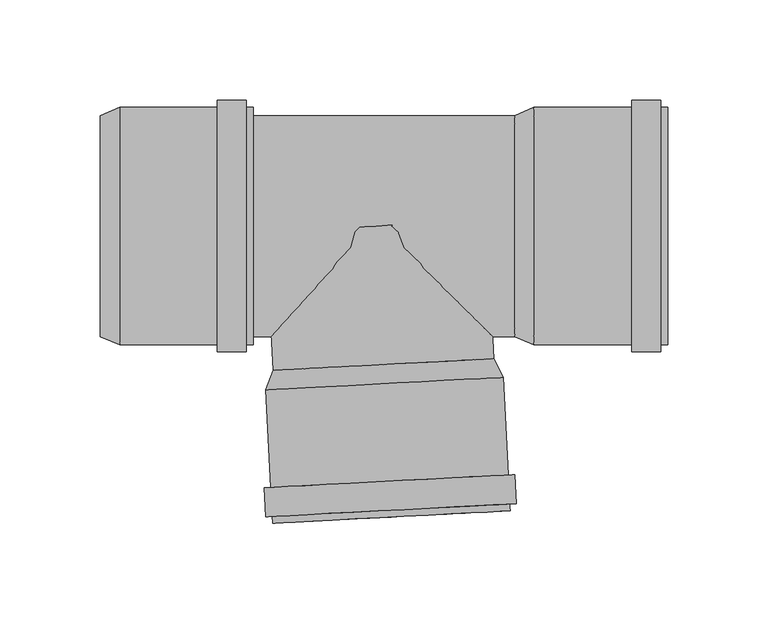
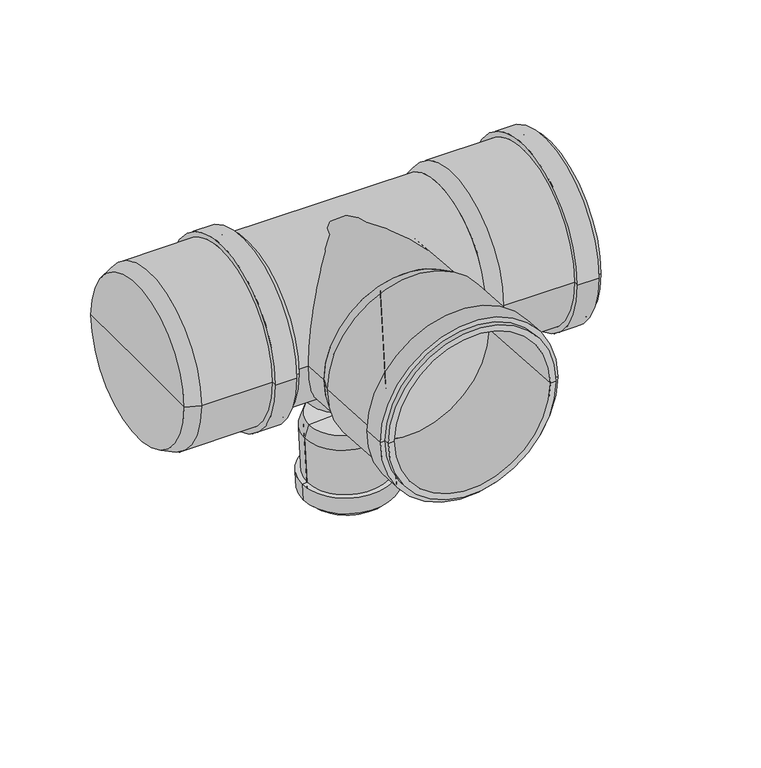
"""IFC4 building model written with IfcOpenShell, lengths in millimetres: pipe fitting geometry, pf_HTEPKp : pf_HTEPKp."""

from ifc_helpers import new_model, si_unit, point, frame, origin, origin_2d, place, context, project, spatial, polyline, circle_curve, trimmed, segment, composite_curve, outline, extrude, source, transform, mapped, element, save
from ifc_brep_helpers import plane_surface, cylinder_surface, revolved_surface, advanced_brep


def pipe_fitting_aec229c0(model_context):
    return source(origin(), model_context, "Body", "SolidModel", [
        advanced_brep(
        [(-20.4884237, 0.0, -86.7406527), (29.4430531, 0.0, -84.1238549), (32.9836603, 0.0, -92.4499645), (-23.1393196, 0.0, -95.3912452), (4.4773147, 0.0, -85.4322538), (-20.6533617, 0.0, -142.8261481), (35.4696182, 0.0, -139.8848674), (32.3738666, 0.0, -140.0471088), (-17.5576101, 0.0, -142.6639067), (-20.8313039, 0.0, -139.4308077), (35.2916759, 0.0, -136.489527), (-24.2266443, 0.0, -139.60875), (38.6870163, 0.0, -136.3115847), (-24.8232742, 0.0, -128.2243733), (38.0903864, 0.0, -124.927208), (-21.4279338, 0.0, -128.046431), (34.695046, 0.0, -125.1051503), (-20.043568, 0.0, -95.2290038), (29.8879087, 0.0, -92.6122059), (4.9221703, 0.0, -93.9206049)],
        [
            (0, 1, circle_curve(frame((4.4773147, 0.0, -85.4322538), z_axis=(0.05233595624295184, 0.0, -0.9986295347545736), x_axis=(0.9986295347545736, 0.0, 0.05233595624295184)), 25.0)),
            (1, 2),
            (2, 3, circle_curve(frame((4.9221703, 0.0, -93.9206049), z_axis=(-0.05233595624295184, 0.0, 0.9986295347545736), x_axis=(0.9986295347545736, 0.0, 0.05233595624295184)), 28.1)),
            (3, 0),
            (1, 0, circle_curve(frame((4.4773147, 0.0, -85.4322538), z_axis=(0.05233595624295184, 0.0, -0.9986295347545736), x_axis=(0.9986295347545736, 0.0, 0.05233595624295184)), 25.0)),
            (3, 2, circle_curve(frame((4.9221703, 0.0, -93.9206049), z_axis=(-0.05233595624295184, 0.0, 0.9986295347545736), x_axis=(0.9986295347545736, 0.0, 0.05233595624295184)), 28.1)),
            (4, 1),
            (0, 4),
            (5, 6, circle_curve(frame((7.4081283, 0.0, -141.3555078), z_axis=(0.05233595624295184, 0.0, -0.9986295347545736), x_axis=(0.9986295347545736, 0.0, 0.05233595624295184)), 28.1)),
            (6, 7),
            (7, 8, circle_curve(frame((7.4081283, 0.0, -141.3555078), z_axis=(-0.05233595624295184, 0.0, 0.9986295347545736), x_axis=(0.9986295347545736, 0.0, 0.05233595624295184)), 25.0)),
            (8, 5),
            (6, 5, circle_curve(frame((7.4081283, 0.0, -141.3555078), z_axis=(0.05233595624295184, 0.0, -0.9986295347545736), x_axis=(0.9986295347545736, 0.0, 0.05233595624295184)), 28.1)),
            (8, 7, circle_curve(frame((7.4081283, 0.0, -141.3555078), z_axis=(-0.05233595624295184, 0.0, 0.9986295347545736), x_axis=(0.9986295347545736, 0.0, 0.05233595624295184)), 25.0)),
            (9, 10, circle_curve(frame((7.230186, 0.0, -137.9601673), z_axis=(0.05233595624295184, 0.0, -0.9986295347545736), x_axis=(0.9986295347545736, 0.0, 0.05233595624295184)), 28.1)),
            (10, 6),
            (5, 9),
            (10, 9, circle_curve(frame((7.230186, 0.0, -137.9601673), z_axis=(0.05233595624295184, 0.0, -0.9986295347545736), x_axis=(0.9986295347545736, 0.0, 0.05233595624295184)), 28.1)),
            (11, 12, circle_curve(frame((7.230186, 0.0, -137.9601673), z_axis=(0.05233595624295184, 0.0, -0.9986295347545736), x_axis=(0.9986295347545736, 0.0, 0.05233595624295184)), 31.5)),
            (12, 10),
            (9, 11),
            (12, 11, circle_curve(frame((7.230186, 0.0, -137.9601673), z_axis=(0.05233595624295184, 0.0, -0.9986295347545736), x_axis=(0.9986295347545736, 0.0, 0.05233595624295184)), 31.5)),
            (13, 14, circle_curve(frame((6.6335561, 0.0, -126.5757906), z_axis=(0.05233595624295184, 0.0, -0.9986295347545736), x_axis=(0.9986295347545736, 0.0, 0.05233595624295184)), 31.5)),
            (14, 12),
            (11, 13),
            (14, 13, circle_curve(frame((6.6335561, 0.0, -126.5757906), z_axis=(0.05233595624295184, 0.0, -0.9986295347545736), x_axis=(0.9986295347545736, 0.0, 0.05233595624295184)), 31.5)),
            (15, 16, circle_curve(frame((6.6335561, 0.0, -126.5757906), z_axis=(0.05233595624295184, 0.0, -0.9986295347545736), x_axis=(0.9986295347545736, 0.0, 0.05233595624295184)), 28.1)),
            (16, 14),
            (13, 15),
            (16, 15, circle_curve(frame((6.6335561, 0.0, -126.5757906), z_axis=(0.05233595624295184, 0.0, -0.9986295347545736), x_axis=(0.9986295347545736, 0.0, 0.05233595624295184)), 28.1)),
            (2, 16),
            (15, 3),
            (17, 18, circle_curve(frame((4.9221703, 0.0, -93.9206049), z_axis=(0.05233595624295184, 0.0, -0.9986295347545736), x_axis=(0.9986295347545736, 0.0, 0.05233595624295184)), 25.0)),
            (18, 19),
            (19, 17),
            (18, 17, circle_curve(frame((4.9221703, 0.0, -93.9206049), z_axis=(0.05233595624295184, 0.0, -0.9986295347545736), x_axis=(0.9986295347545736, 0.0, 0.05233595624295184)), 25.0)),
            (7, 18),
            (17, 8),
        ],
        [
            revolved_surface(polyline([(32.9836603, 0.0, -92.4499645), (29.4430531, 0.0, -84.1238549)]), (4.4773147, 0.0, -85.4322538), (-0.05233595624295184, 0.0, 0.9986295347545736)),
            plane_surface(frame((4.4773147, 0.0, -85.4322538), z_axis=(-0.05233595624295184, 0.0, 0.9986295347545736), x_axis=(0.9986295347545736, 0.0, 0.05233595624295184))),
            plane_surface(frame((7.4081283, 0.0, -141.3555078), z_axis=(0.05233595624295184, 0.0, -0.9986295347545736), x_axis=(0.9986295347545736, 0.0, 0.05233595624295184))),
            cylinder_surface(frame((4.4773147, 0.0, -85.4322538), z_axis=(-0.05233595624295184, 0.0, 0.9986295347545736), x_axis=(0.9986295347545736, 0.0, 0.05233595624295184)), 28.1),
            plane_surface(frame((7.230186, 0.0, -137.9601673), z_axis=(0.05233595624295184, 0.0, -0.9986295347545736), x_axis=(0.9986295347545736, 0.0, 0.05233595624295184))),
            cylinder_surface(frame((4.4773147, 0.0, -85.4322538), z_axis=(-0.05233595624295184, 0.0, 0.9986295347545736), x_axis=(0.9986295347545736, 0.0, 0.05233595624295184)), 31.5),
            plane_surface(frame((6.6335561, 0.0, -126.5757906), z_axis=(-0.05233595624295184, 0.0, 0.9986295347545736), x_axis=(0.9986295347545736, 0.0, 0.05233595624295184))),
            plane_surface(frame((4.9221703, 0.0, -93.9206049), z_axis=(0.05233595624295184, 0.0, -0.9986295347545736), x_axis=(0.9986295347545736, 0.0, 0.05233595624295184))),
            revolved_surface(polyline([(29.887908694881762, 0.0, -92.61220590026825), (32.37386662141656, 0.0, -140.04710889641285)]), (4.4773147, 0.0, -85.4322538), (-0.05233595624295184, 0.0, 0.9986295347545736)),
        ],
        [
            (0, [[1, 2, 3, 4]]),
            (0, [[5, -4, 6, -2]]),
            (1, [[7, -1, 8]]),
            (1, [[-8, -5, -7]]),
            (2, [[9, 10, 11, 12]]),
            (2, [[13, -12, 14, -10]]),
            (3, [[15, 16, -9, 17]]),
            (3, [[18, -17, -13, -16]]),
            (4, [[19, 20, -15, 21]]),
            (4, [[22, -21, -18, -20]]),
            (5, [[23, 24, -19, 25]]),
            (5, [[26, -25, -22, -24]]),
            (6, [[27, 28, -23, 29]]),
            (6, [[30, -29, -26, -28]]),
            (3, [[-3, 31, -27, 32]]),
            (3, [[-6, -32, -30, -31]]),
            (7, [[33, 34, 35]]),
            (7, [[36, -35, -34]]),
            (8, [[-11, 37, -33, 38]]),
            (8, [[-14, -38, -36, -37]]),
        ],
    ),
        advanced_brep(
        [(-51.3134434, -71.7839155, 0.0), (58.5358054, -66.0269603, 0.0), (63.1273781, -75.2993635, 0.0), (-54.9106329, -81.4854735, 0.0), (3.611181, -68.9054379, 0.0), (-51.4302918, -147.8943376, 0.0), (66.6077192, -141.7082275, 0.0), (62.5133381, -141.9228049, 0.0), (-47.3359108, -147.6797601, 0.0), (-51.6082341, -144.4989971, 0.0), (66.4297769, -138.3128871, 0.0), (-55.0035745, -144.6769394, 0.0), (69.8251173, -138.1349449, 0.0), (-55.7624459, -130.1968111, 0.0), (69.066246, -123.6548166, 0.0), (-52.3671055, -130.0188689, 0.0), (65.6709055, -123.8327589, 0.0), (-50.8162518, -81.2708961, 0.0), (59.032997, -75.5139409, 0.0), (4.1083726, -78.3924185, 0.0)],
        [
            (0, 1, circle_curve(frame((3.611181, -68.9054379, 0.0), z_axis=(0.052335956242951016, -0.9986295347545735, 0.0), x_axis=(0.9986295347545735, 0.052335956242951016, 0.0)), 55.0)),
            (1, 2),
            (2, 3, circle_curve(frame((4.1083726, -78.3924185, 0.0), z_axis=(-0.052335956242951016, 0.9986295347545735, 0.0), x_axis=(0.9986295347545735, 0.052335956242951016, 0.0)), 59.1)),
            (3, 0),
            (1, 0, circle_curve(frame((3.611181, -68.9054379, 0.0), z_axis=(0.052335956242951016, -0.9986295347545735, 0.0), x_axis=(0.9986295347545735, 0.052335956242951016, 0.0)), 55.0)),
            (3, 2, circle_curve(frame((4.1083726, -78.3924185, 0.0), z_axis=(-0.052335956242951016, 0.9986295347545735, 0.0), x_axis=(0.9986295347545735, 0.052335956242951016, 0.0)), 59.1)),
            (4, 1),
            (0, 4),
            (5, 6, circle_curve(frame((7.5887137, -144.8012825, 0.0), z_axis=(0.052335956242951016, -0.9986295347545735, 0.0), x_axis=(0.9986295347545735, 0.052335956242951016, 0.0)), 59.1)),
            (6, 7),
            (7, 8, circle_curve(frame((7.5887137, -144.8012825, 0.0), z_axis=(-0.052335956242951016, 0.9986295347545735, 0.0), x_axis=(0.9986295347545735, 0.052335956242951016, 0.0)), 55.0)),
            (8, 5),
            (6, 5, circle_curve(frame((7.5887137, -144.8012825, 0.0), z_axis=(0.052335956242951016, -0.9986295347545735, 0.0), x_axis=(0.9986295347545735, 0.052335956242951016, 0.0)), 59.1)),
            (8, 7, circle_curve(frame((7.5887137, -144.8012825, 0.0), z_axis=(-0.052335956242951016, 0.9986295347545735, 0.0), x_axis=(0.9986295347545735, 0.052335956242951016, 0.0)), 55.0)),
            (9, 10, circle_curve(frame((7.4107714, -141.4059421, 0.0), z_axis=(0.052335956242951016, -0.9986295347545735, 0.0), x_axis=(0.9986295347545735, 0.052335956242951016, 0.0)), 59.1)),
            (10, 6),
            (5, 9),
            (10, 9, circle_curve(frame((7.4107714, -141.4059421, 0.0), z_axis=(0.052335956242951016, -0.9986295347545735, 0.0), x_axis=(0.9986295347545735, 0.052335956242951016, 0.0)), 59.1)),
            (11, 12, circle_curve(frame((7.4107714, -141.4059421, 0.0), z_axis=(0.052335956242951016, -0.9986295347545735, 0.0), x_axis=(0.9986295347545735, 0.052335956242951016, 0.0)), 62.5)),
            (12, 10),
            (9, 11),
            (12, 11, circle_curve(frame((7.4107714, -141.4059421, 0.0), z_axis=(0.052335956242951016, -0.9986295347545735, 0.0), x_axis=(0.9986295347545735, 0.052335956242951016, 0.0)), 62.5)),
            (13, 14, circle_curve(frame((6.6519, -126.9258139, 0.0), z_axis=(0.052335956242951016, -0.9986295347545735, 0.0), x_axis=(0.9986295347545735, 0.052335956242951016, 0.0)), 62.5)),
            (14, 12),
            (11, 13),
            (14, 13, circle_curve(frame((6.6519, -126.9258139, 0.0), z_axis=(0.052335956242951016, -0.9986295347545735, 0.0), x_axis=(0.9986295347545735, 0.052335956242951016, 0.0)), 62.5)),
            (15, 16, circle_curve(frame((6.6519, -126.9258139, 0.0), z_axis=(0.052335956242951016, -0.9986295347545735, 0.0), x_axis=(0.9986295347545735, 0.052335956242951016, 0.0)), 59.1)),
            (16, 14),
            (13, 15),
            (16, 15, circle_curve(frame((6.6519, -126.9258139, 0.0), z_axis=(0.052335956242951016, -0.9986295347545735, 0.0), x_axis=(0.9986295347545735, 0.052335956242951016, 0.0)), 59.1)),
            (2, 16),
            (15, 3),
            (17, 18, circle_curve(frame((4.1083726, -78.3924185, 0.0), z_axis=(0.052335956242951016, -0.9986295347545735, 0.0), x_axis=(0.9986295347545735, 0.052335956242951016, 0.0)), 55.0)),
            (18, 19),
            (19, 17),
            (18, 17, circle_curve(frame((4.1083726, -78.3924185, 0.0), z_axis=(0.052335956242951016, -0.9986295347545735, 0.0), x_axis=(0.9986295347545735, 0.052335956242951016, 0.0)), 55.0)),
            (7, 18),
            (17, 8),
        ],
        [
            revolved_surface(polyline([(63.1273781, -75.2993635, 0.0), (58.5358054, -66.0269603, 0.0)]), (3.611181, -68.9054379, 0.0), (-0.052335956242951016, 0.9986295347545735, 0.0)),
            plane_surface(frame((3.611181, -68.9054379, 0.0), z_axis=(-0.052335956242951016, 0.9986295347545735, 0.0), x_axis=(0.9986295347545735, 0.052335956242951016, 0.0))),
            plane_surface(frame((7.5887137, -144.8012825, 0.0), z_axis=(0.052335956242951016, -0.9986295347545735, 0.0), x_axis=(0.9986295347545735, 0.052335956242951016, 0.0))),
            cylinder_surface(frame((3.611181, -68.9054379, 0.0), z_axis=(-0.052335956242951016, 0.9986295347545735, 0.0), x_axis=(0.9986295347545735, 0.052335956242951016, 0.0)), 59.1),
            plane_surface(frame((7.4107714, -141.4059421, 0.0), z_axis=(0.052335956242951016, -0.9986295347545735, 0.0), x_axis=(0.9986295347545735, 0.052335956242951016, 0.0))),
            cylinder_surface(frame((3.611181, -68.9054379, 0.0), z_axis=(-0.052335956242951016, 0.9986295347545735, 0.0), x_axis=(0.9986295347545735, 0.052335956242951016, 0.0)), 62.5),
            plane_surface(frame((6.6519, -126.9258139, 0.0), z_axis=(-0.052335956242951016, 0.9986295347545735, 0.0), x_axis=(0.9986295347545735, 0.052335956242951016, 0.0))),
            plane_surface(frame((4.1083726, -78.3924185, 0.0), z_axis=(0.052335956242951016, -0.9986295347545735, 0.0), x_axis=(0.9986295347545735, 0.052335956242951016, 0.0))),
            revolved_surface(polyline([(59.03299699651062, -75.51394090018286, 0.0), (62.51333808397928, -141.92280491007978, 0.0)]), (3.611181, -68.9054379, 0.0), (-0.052335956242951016, 0.9986295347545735, 0.0)),
        ],
        [
            (0, [[1, 2, 3, 4]]),
            (0, [[5, -4, 6, -2]]),
            (1, [[7, -1, 8]]),
            (1, [[-8, -5, -7]]),
            (2, [[9, 10, 11, 12]]),
            (2, [[13, -12, 14, -10]]),
            (3, [[15, 16, -9, 17]]),
            (3, [[18, -17, -13, -16]]),
            (4, [[19, 20, -15, 21]]),
            (4, [[22, -21, -18, -20]]),
            (5, [[23, 24, -19, 25]]),
            (5, [[26, -25, -22, -24]]),
            (6, [[27, 28, -23, 29]]),
            (6, [[30, -29, -26, -28]]),
            (3, [[-3, 31, -27, 32]]),
            (3, [[-6, -32, -30, -31]]),
            (7, [[33, 34, 35]]),
            (7, [[36, -35, -34]]),
            (8, [[-11, 37, -33, 38]]),
            (8, [[-14, -38, -36, -37]]),
        ],
    ),
        advanced_brep(
        [(69.0, -55.0, 0.0), (69.0, 55.0, 0.0), (78.5, 59.1, 0.0), (78.5, -59.1, 0.0), (69.0, 0.0, 0.0), (145.0, -59.1, 0.0), (145.0, 59.1, 0.0), (145.0, 55.0, 0.0), (145.0, -55.0, 0.0), (141.6, -59.1, 0.0), (141.6, 59.1, 0.0), (141.6, -62.5, 0.0), (141.6, 62.5, 0.0), (127.1, -62.5, 0.0), (127.1, 62.5, 0.0), (127.1, -59.1, 0.0), (127.1, 59.1, 0.0), (78.5, -55.0, 0.0), (78.5, 55.0, 0.0), (78.5, 0.0, 0.0)],
        [
            (0, 1, circle_curve(frame((69.0, 0.0, 0.0), z_axis=(1.0, 0.0, 0.0), x_axis=(0.0, 1.0, 0.0)), 55.0)),
            (1, 2),
            (2, 3, circle_curve(frame((78.5, 0.0, 0.0), z_axis=(-1.0, 0.0, 0.0), x_axis=(0.0, 1.0, 0.0)), 59.1)),
            (3, 0),
            (1, 0, circle_curve(frame((69.0, 0.0, 0.0), z_axis=(1.0, 0.0, 0.0), x_axis=(0.0, 1.0, 0.0)), 55.0)),
            (3, 2, circle_curve(frame((78.5, 0.0, 0.0), z_axis=(-1.0, 0.0, 0.0), x_axis=(0.0, 1.0, 0.0)), 59.1)),
            (4, 1),
            (0, 4),
            (5, 6, circle_curve(frame((145.0, 0.0, 0.0), z_axis=(1.0, 0.0, 0.0), x_axis=(0.0, 1.0, 0.0)), 59.1)),
            (6, 7),
            (7, 8, circle_curve(frame((145.0, 0.0, 0.0), z_axis=(-1.0, 0.0, 0.0), x_axis=(0.0, 1.0, 0.0)), 55.0)),
            (8, 5),
            (6, 5, circle_curve(frame((145.0, 0.0, 0.0), z_axis=(1.0, 0.0, 0.0), x_axis=(0.0, 1.0, 0.0)), 59.1)),
            (8, 7, circle_curve(frame((145.0, 0.0, 0.0), z_axis=(-1.0, 0.0, 0.0), x_axis=(0.0, 1.0, 0.0)), 55.0)),
            (9, 10, circle_curve(frame((141.6, 0.0, 0.0), z_axis=(1.0, 0.0, 0.0), x_axis=(0.0, 1.0, 0.0)), 59.1)),
            (10, 6),
            (5, 9),
            (10, 9, circle_curve(frame((141.6, 0.0, 0.0), z_axis=(1.0, 0.0, 0.0), x_axis=(0.0, 1.0, 0.0)), 59.1)),
            (11, 12, circle_curve(frame((141.6, 0.0, 0.0), z_axis=(1.0, 0.0, 0.0), x_axis=(0.0, 1.0, 0.0)), 62.5)),
            (12, 10),
            (9, 11),
            (12, 11, circle_curve(frame((141.6, 0.0, 0.0), z_axis=(1.0, 0.0, 0.0), x_axis=(0.0, 1.0, 0.0)), 62.5)),
            (13, 14, circle_curve(frame((127.1, 0.0, 0.0), z_axis=(1.0, 0.0, 0.0), x_axis=(0.0, 1.0, 0.0)), 62.5)),
            (14, 12),
            (11, 13),
            (14, 13, circle_curve(frame((127.1, 0.0, 0.0), z_axis=(1.0, 0.0, 0.0), x_axis=(0.0, 1.0, 0.0)), 62.5)),
            (15, 16, circle_curve(frame((127.1, 0.0, 0.0), z_axis=(1.0, 0.0, 0.0), x_axis=(0.0, 1.0, 0.0)), 59.1)),
            (16, 14),
            (13, 15),
            (16, 15, circle_curve(frame((127.1, 0.0, 0.0), z_axis=(1.0, 0.0, 0.0), x_axis=(0.0, 1.0, 0.0)), 59.1)),
            (2, 16),
            (15, 3),
            (17, 18, circle_curve(frame((78.5, 0.0, 0.0), z_axis=(1.0, 0.0, 0.0), x_axis=(0.0, 1.0, 0.0)), 55.0)),
            (18, 19),
            (19, 17),
            (18, 17, circle_curve(frame((78.5, 0.0, 0.0), z_axis=(1.0, 0.0, 0.0), x_axis=(0.0, 1.0, 0.0)), 55.0)),
            (7, 18),
            (17, 8),
        ],
        [
            revolved_surface(polyline([(78.5, 59.1, 0.0), (69.0, 55.0, 0.0)]), (69.0, 0.0, 0.0), (-1.0, 0.0, 0.0)),
            plane_surface(frame((69.0, 0.0, 0.0), z_axis=(-1.0, 0.0, 0.0), x_axis=(0.0, 1.0, 0.0))),
            plane_surface(frame((145.0, 0.0, 0.0), z_axis=(1.0, 0.0, 0.0), x_axis=(0.0, 1.0, 0.0))),
            cylinder_surface(frame((69.0, 0.0, 0.0), z_axis=(-1.0, 0.0, 0.0), x_axis=(0.0, 1.0, 0.0)), 59.1),
            plane_surface(frame((141.6, 0.0, 0.0), z_axis=(1.0, 0.0, 0.0), x_axis=(0.0, 1.0, 0.0))),
            cylinder_surface(frame((69.0, 0.0, 0.0), z_axis=(-1.0, 0.0, 0.0), x_axis=(0.0, 1.0, 0.0)), 62.5),
            plane_surface(frame((127.1, 0.0, 0.0), z_axis=(-1.0, 0.0, 0.0), x_axis=(0.0, 1.0, 0.0))),
            plane_surface(frame((78.5, 0.0, 0.0), z_axis=(1.0, 0.0, 0.0), x_axis=(0.0, 1.0, 0.0))),
            revolved_surface(polyline([(78.5, 55.0, 0.0), (145.0, 55.0, 0.0)]), (69.0, 0.0, 0.0), (-1.0, 0.0, 0.0)),
        ],
        [
            (0, [[1, 2, 3, 4]]),
            (0, [[5, -4, 6, -2]]),
            (1, [[7, -1, 8]]),
            (1, [[-8, -5, -7]]),
            (2, [[9, 10, 11, 12]]),
            (2, [[13, -12, 14, -10]]),
            (3, [[15, 16, -9, 17]]),
            (3, [[18, -17, -13, -16]]),
            (4, [[19, 20, -15, 21]]),
            (4, [[22, -21, -18, -20]]),
            (5, [[23, 24, -19, 25]]),
            (5, [[26, -25, -22, -24]]),
            (6, [[27, 28, -23, 29]]),
            (6, [[30, -29, -26, -28]]),
            (3, [[-3, 31, -27, 32]]),
            (3, [[-6, -32, -30, -31]]),
            (7, [[33, 34, 35]]),
            (7, [[36, -35, -34]]),
            (8, [[-11, 37, -33, 38]]),
            (8, [[-14, -38, -36, -37]]),
        ],
    ),
        advanced_brep(
        [(-137.2, -55.0, 0.0), (-137.2, 55.0, 0.0), (-127.7, 59.1, 0.0), (-127.7, -59.1, 0.0), (-137.2, 0.0, 0.0), (-61.2, -59.1, 0.0), (-61.2, 59.1, 0.0), (-61.2, 55.0, 0.0), (-61.2, -55.0, 0.0), (-64.6, -59.1, 0.0), (-64.6, 59.1, 0.0), (-64.6, -62.5, 0.0), (-64.6, 62.5, 0.0), (-79.1, -62.5, 0.0), (-79.1, 62.5, 0.0), (-79.1, -59.1, 0.0), (-79.1, 59.1, 0.0), (-127.7, -55.0, 0.0), (-127.7, 55.0, 0.0), (-127.7, 0.0, 0.0)],
        [
            (0, 1, circle_curve(frame((-137.2, 0.0, 0.0), z_axis=(1.0, 0.0, 0.0), x_axis=(0.0, 1.0, 0.0)), 55.0)),
            (1, 2),
            (2, 3, circle_curve(frame((-127.7, 0.0, 0.0), z_axis=(-1.0, 0.0, 0.0), x_axis=(0.0, 1.0, 0.0)), 59.1)),
            (3, 0),
            (1, 0, circle_curve(frame((-137.2, 0.0, 0.0), z_axis=(1.0, 0.0, 0.0), x_axis=(0.0, 1.0, 0.0)), 55.0)),
            (3, 2, circle_curve(frame((-127.7, 0.0, 0.0), z_axis=(-1.0, 0.0, 0.0), x_axis=(0.0, 1.0, 0.0)), 59.1)),
            (4, 1),
            (0, 4),
            (5, 6, circle_curve(frame((-61.2, 0.0, 0.0), z_axis=(1.0, 0.0, 0.0), x_axis=(0.0, 1.0, 0.0)), 59.1)),
            (6, 7),
            (7, 8, circle_curve(frame((-61.2, 0.0, 0.0), z_axis=(-1.0, 0.0, 0.0), x_axis=(0.0, 1.0, 0.0)), 55.0)),
            (8, 5),
            (6, 5, circle_curve(frame((-61.2, 0.0, 0.0), z_axis=(1.0, 0.0, 0.0), x_axis=(0.0, 1.0, 0.0)), 59.1)),
            (8, 7, circle_curve(frame((-61.2, 0.0, 0.0), z_axis=(-1.0, 0.0, 0.0), x_axis=(0.0, 1.0, 0.0)), 55.0)),
            (9, 10, circle_curve(frame((-64.6, 0.0, 0.0), z_axis=(1.0, 0.0, 0.0), x_axis=(0.0, 1.0, 0.0)), 59.1)),
            (10, 6),
            (5, 9),
            (10, 9, circle_curve(frame((-64.6, 0.0, 0.0), z_axis=(1.0, 0.0, 0.0), x_axis=(0.0, 1.0, 0.0)), 59.1)),
            (11, 12, circle_curve(frame((-64.6, 0.0, 0.0), z_axis=(1.0, 0.0, 0.0), x_axis=(0.0, 1.0, 0.0)), 62.5)),
            (12, 10),
            (9, 11),
            (12, 11, circle_curve(frame((-64.6, 0.0, 0.0), z_axis=(1.0, 0.0, 0.0), x_axis=(0.0, 1.0, 0.0)), 62.5)),
            (13, 14, circle_curve(frame((-79.1, 0.0, 0.0), z_axis=(1.0, 0.0, 0.0), x_axis=(0.0, 1.0, 0.0)), 62.5)),
            (14, 12),
            (11, 13),
            (14, 13, circle_curve(frame((-79.1, 0.0, 0.0), z_axis=(1.0, 0.0, 0.0), x_axis=(0.0, 1.0, 0.0)), 62.5)),
            (15, 16, circle_curve(frame((-79.1, 0.0, 0.0), z_axis=(1.0, 0.0, 0.0), x_axis=(0.0, 1.0, 0.0)), 59.1)),
            (16, 14),
            (13, 15),
            (16, 15, circle_curve(frame((-79.1, 0.0, 0.0), z_axis=(1.0, 0.0, 0.0), x_axis=(0.0, 1.0, 0.0)), 59.1)),
            (2, 16),
            (15, 3),
            (17, 18, circle_curve(frame((-127.7, 0.0, 0.0), z_axis=(1.0, 0.0, 0.0), x_axis=(0.0, 1.0, 0.0)), 55.0)),
            (18, 19),
            (19, 17),
            (18, 17, circle_curve(frame((-127.7, 0.0, 0.0), z_axis=(1.0, 0.0, 0.0), x_axis=(0.0, 1.0, 0.0)), 55.0)),
            (7, 18),
            (17, 8),
        ],
        [
            revolved_surface(polyline([(-127.7, 59.1, 0.0), (-137.2, 55.0, 0.0)]), (-137.2, 0.0, 0.0), (-1.0, 0.0, 0.0)),
            plane_surface(frame((-137.2, 0.0, 0.0), z_axis=(-1.0, 0.0, 0.0), x_axis=(0.0, 1.0, 0.0))),
            plane_surface(frame((-61.2, 0.0, 0.0), z_axis=(1.0, 0.0, 0.0), x_axis=(0.0, 1.0, 0.0))),
            cylinder_surface(frame((-137.2, 0.0, 0.0), z_axis=(-1.0, 0.0, 0.0), x_axis=(0.0, 1.0, 0.0)), 59.1),
            plane_surface(frame((-64.6, 0.0, 0.0), z_axis=(1.0, 0.0, 0.0), x_axis=(0.0, 1.0, 0.0))),
            cylinder_surface(frame((-137.2, 0.0, 0.0), z_axis=(-1.0, 0.0, 0.0), x_axis=(0.0, 1.0, 0.0)), 62.5),
            plane_surface(frame((-79.1, 0.0, 0.0), z_axis=(-1.0, 0.0, 0.0), x_axis=(0.0, 1.0, 0.0))),
            plane_surface(frame((-127.7, 0.0, 0.0), z_axis=(1.0, 0.0, 0.0), x_axis=(0.0, 1.0, 0.0))),
            revolved_surface(polyline([(-127.7, 55.0, 0.0), (-61.2, 55.0, 0.0)]), (-137.2, 0.0, 0.0), (-1.0, 0.0, 0.0)),
        ],
        [
            (0, [[1, 2, 3, 4]]),
            (0, [[5, -4, 6, -2]]),
            (1, [[7, -1, 8]]),
            (1, [[-8, -5, -7]]),
            (2, [[9, 10, 11, 12]]),
            (2, [[13, -12, 14, -10]]),
            (3, [[15, 16, -9, 17]]),
            (3, [[18, -17, -13, -16]]),
            (4, [[19, 20, -15, 21]]),
            (4, [[22, -21, -18, -20]]),
            (5, [[23, 24, -19, 25]]),
            (5, [[26, -25, -22, -24]]),
            (6, [[27, 28, -23, 29]]),
            (6, [[30, -29, -26, -28]]),
            (3, [[-3, 31, -27, 32]]),
            (3, [[-6, -32, -30, -31]]),
            (7, [[33, 34, 35]]),
            (7, [[36, -35, -34]]),
            (8, [[-11, 37, -33, 38]]),
            (8, [[-14, -38, -36, -37]]),
        ],
    ),
        extrude(outline(composite_curve([segment(trimmed(circle_curve(origin_2d(), 25.0), [point((0.0, -25.0))], [point((0.0, 24.9999999))], False, "CARTESIAN"), True, "CONTINUOUS"), segment(trimmed(circle_curve(origin_2d(), 25.0), [point((0.0, 24.9999999))], [point((0.0, -25.0))], False, "CARTESIAN"), True, "CONTINUOUS")], self_intersect=False)), frame((3.611181, 0.0, -68.9054379), z_axis=(-0.052335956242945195, 0.0, 0.9986295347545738), x_axis=(0.0, -1.0, 0.0)), (0.0, 0.0, 1.0), 69.0),
        extrude(outline(composite_curve([segment(trimmed(circle_curve(origin_2d(), 55.0), [point((0.0, -55.0))], [point((0.0, 55.0))], False, "CARTESIAN"), True, "CONTINUOUS"), segment(trimmed(circle_curve(origin_2d(), 55.0), [point((0.0, 55.0))], [point((0.0, -55.0))], False, "CARTESIAN"), True, "CONTINUOUS")], self_intersect=False)), frame((3.611181, -68.9054379, 0.0), z_axis=(-0.052335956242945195, 0.9986295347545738, 0.0), x_axis=(0.0, 0.0, 1.0)), (0.0, 0.0, 1.0), 69.0),
        extrude(outline(composite_curve([segment(trimmed(circle_curve(origin_2d(), 55.0), [point((-55.0, 0.0))], [point((55.0, 0.0))], False, "CARTESIAN"), True, "CONTINUOUS"), segment(trimmed(circle_curve(origin_2d(), 55.0), [point((55.0, 0.0))], [point((-55.0, 0.0))], False, "CARTESIAN"), True, "CONTINUOUS")], self_intersect=False)), frame((-61.2, 0.0, 0.0), z_axis=(1.0, 0.0, 0.0), x_axis=(0.0, 1.0, 0.0)), (0.0, 0.0, 1.0), 130.2),
    ])


if __name__ == "__main__":
    model = new_model("IFC4")
    model_context = context("Model", 3, world=origin())
    ifc_project = project(units=[si_unit("LENGTHUNIT", "METRE", prefix="MILLI")], contexts=[model_context])
    site = spatial("IfcSite", under=ifc_project)
    building = spatial("IfcBuilding", under=site)
    placement = place(None, origin())
    pipe_fitting_shape = pipe_fitting_aec229c0(model_context)
    element("IfcPipeFitting", 1, ObjectType="pf_HTEPKp : pf_HTEPKp", at=placement, inside=building, context=model_context, shape_type="MappedRepresentation", body=[
        mapped(pipe_fitting_shape, transform((0.0, 0.0, 0.0), x_axis=(1.0, 0.0, 0.0), y_axis=(0.0, 1.0, 0.0), z_axis=(0.0, 0.0, 1.0))),
    ])
    save(model, "model.ifc")
